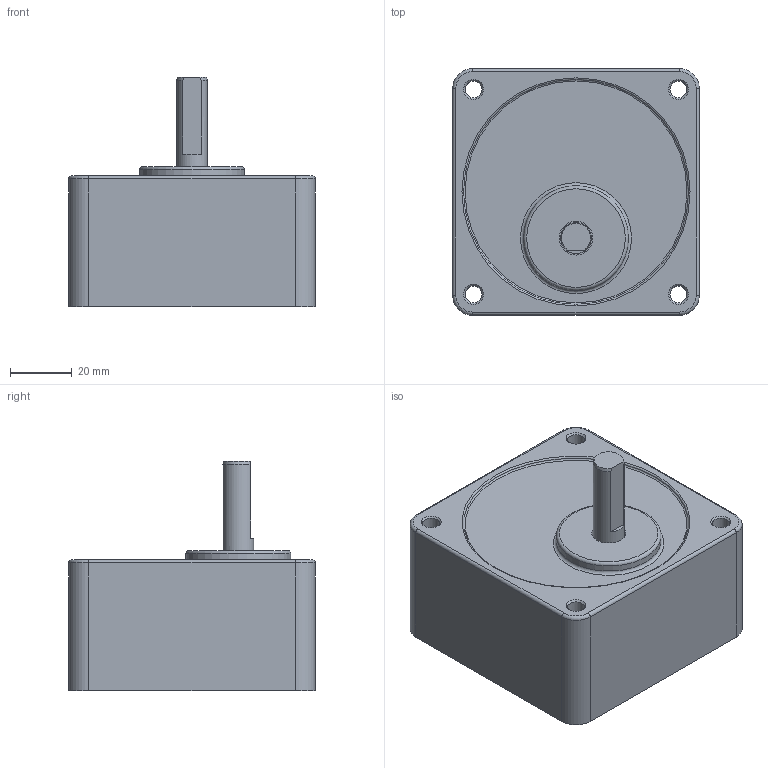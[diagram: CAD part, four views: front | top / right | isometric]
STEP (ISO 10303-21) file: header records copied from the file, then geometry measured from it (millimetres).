
FILE_DESCRIPTION((''),'2;1');
FILE_NAME('\\Spgrnd02\고객배포용도면\3D\01 Standard AC Motor\01 INDUCTION MOTOR\S8I15+S8KA\S8DA20~200.stp','2015-03-24T16:35:38',('smkim'),(''),'Autodesk Inventor 2012','Autodesk Inventor 2012','');
FILE_SCHEMA(('AUTOMOTIVE_DESIGN { 1 0 10303 214 1 1 1 1 }'));
Length unit declared in the file: millimetre
Products named in the file (1): S8DA20~200
Bounding box: 80 x 80 x 74.5 mm (x, y, z)
Volume: 246266.9 mm3; surface area: 31571.2 mm2
Topology: 1 solids, 1 shells, 44 faces, 93 edges, 57 vertices
Faces by surface type: cylinder 17, plane 14, torus 8, cone 5
Full cylindrical faces by diameter (mm): 5.5 x4, 8 x1, 10 x1, 11 x1, 34 x1, 73 x1
Entity records: 1139 total; most frequent: DIRECTION 212, CARTESIAN_POINT 180, ORIENTED_EDGE 150, AXIS2_PLACEMENT_3D 94, EDGE_CURVE 75, EDGE_LOOP 75, VERTEX_POINT 56, CIRCLE 49
